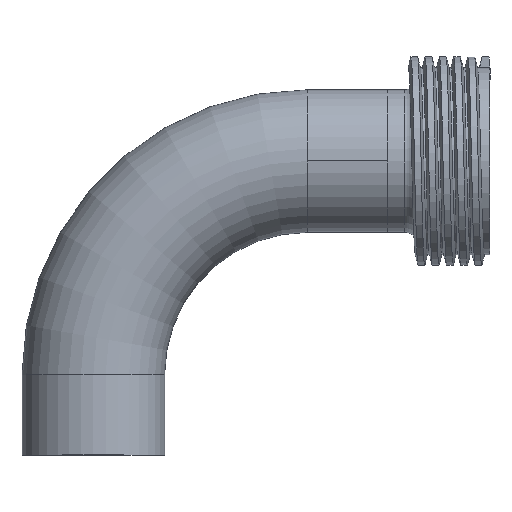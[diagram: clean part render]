
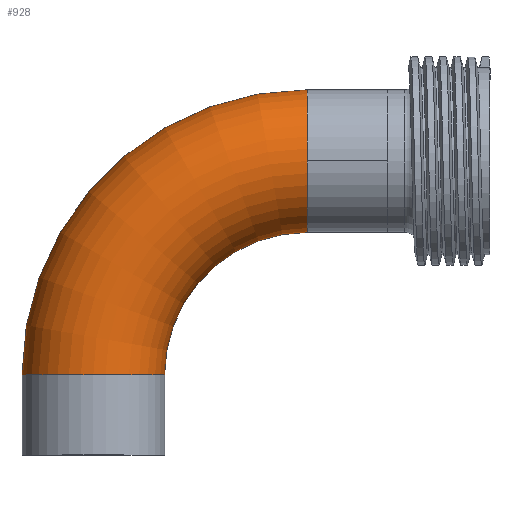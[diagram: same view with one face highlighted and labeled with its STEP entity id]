
A CAD part, top view. The second image highlights one B-rep face of the part: STEP entity #928.
In plain terms, the highlighted toroidal (fillet/blend) face has major radius 38.1 mm and minor radius 12.7 mm.
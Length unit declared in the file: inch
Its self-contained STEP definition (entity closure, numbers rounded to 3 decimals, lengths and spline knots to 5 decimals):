
#32 = DIRECTION ( 'NONE',  ( 0., -1., 0. ) ) ;
#74 = CIRCLE ( 'NONE', #1443, 2. ) ;
#158 = CARTESIAN_POINT ( 'NONE',  ( 0., -1.5, 0. ) ) ;
#208 = CARTESIAN_POINT ( 'NONE',  ( 1.5, -1.5, 0. ) ) ;
#223 = AXIS2_PLACEMENT_3D ( 'NONE', #649, #1999, #839 ) ;
#268 = CARTESIAN_POINT ( 'NONE',  ( 1.5, -1.5, 0. ) ) ;
#352 = DIRECTION ( 'NONE',  ( 1., 0., 0. ) ) ;
#401 = DIRECTION ( 'NONE',  ( -1., 0., 0. ) ) ;
#466 = DIRECTION ( 'NONE',  ( -1., 0., 0. ) ) ;
#471 = CARTESIAN_POINT ( 'NONE',  ( 1.5, -1.5, 0. ) ) ;
#477 = EDGE_CURVE ( 'NONE', #826, #1966, #74, .T. ) ;
#519 = CIRCLE ( 'NONE', #1398, 0.5 ) ;
#534 = EDGE_CURVE ( 'NONE', #1058, #1966, #519, .T. ) ;
#606 = CARTESIAN_POINT ( 'NONE',  ( 0.5, -1.5, 0. ) ) ;
#649 = CARTESIAN_POINT ( 'NONE',  ( 1.5, 0., 0. ) ) ;
#812 = EDGE_CURVE ( 'NONE', #1027, #2136, #1753, .T. ) ;
#822 = AXIS2_PLACEMENT_3D ( 'NONE', #471, #854, #1047 ) ;
#826 = VERTEX_POINT ( 'NONE', #2359 ) ;
#839 = DIRECTION ( 'NONE',  ( 0., -1., 0. ) ) ;
#854 = DIRECTION ( 'NONE',  ( 0., 0., -1. ) ) ;
#915 = EDGE_LOOP ( 'NONE', ( #1541, #2052, #1481, #1728, #2422 ) ) ;
#928 = ADVANCED_FACE ( 'NONE', ( #1107 ), #1046, .T. ) ;
#972 = CIRCLE ( 'NONE', #223, 0.5 ) ;
#986 = AXIS2_PLACEMENT_3D ( 'NONE', #268, #1611, #466 ) ;
#1027 = VERTEX_POINT ( 'NONE', #606 ) ;
#1046 = TOROIDAL_SURFACE ( 'NONE', #822, 1.5, 0.5 ) ;
#1047 = DIRECTION ( 'NONE',  ( -1., 0., 0. ) ) ;
#1058 = VERTEX_POINT ( 'NONE', #2146 ) ;
#1103 = AXIS2_PLACEMENT_3D ( 'NONE', #158, #1492, #352 ) ;
#1107 = FACE_OUTER_BOUND ( 'NONE', #915, .T. ) ;
#1121 = CARTESIAN_POINT ( 'NONE',  ( 1.5, -0.5, 0. ) ) ;
#1158 = DIRECTION ( 'NONE',  ( -1., 0., 0. ) ) ;
#1398 = AXIS2_PLACEMENT_3D ( 'NONE', #2306, #1158, #32 ) ;
#1413 = EDGE_CURVE ( 'NONE', #2136, #1058, #972, .T. ) ;
#1443 = AXIS2_PLACEMENT_3D ( 'NONE', #208, #1548, #401 ) ;
#1481 = ORIENTED_EDGE ( 'NONE', *, *, #812, .T. ) ;
#1492 = DIRECTION ( 'NONE',  ( 0., -1., 0. ) ) ;
#1541 = ORIENTED_EDGE ( 'NONE', *, *, #477, .F. ) ;
#1548 = DIRECTION ( 'NONE',  ( 0., 0., -1. ) ) ;
#1611 = DIRECTION ( 'NONE',  ( 0., 0., -1. ) ) ;
#1681 = CARTESIAN_POINT ( 'NONE',  ( 1.5, 0.5, 0. ) ) ;
#1728 = ORIENTED_EDGE ( 'NONE', *, *, #1413, .T. ) ;
#1753 = CIRCLE ( 'NONE', #986, 1. ) ;
#1949 = EDGE_CURVE ( 'NONE', #1027, #826, #2322, .T. ) ;
#1966 = VERTEX_POINT ( 'NONE', #1681 ) ;
#1999 = DIRECTION ( 'NONE',  ( -1., 0., 0. ) ) ;
#2052 = ORIENTED_EDGE ( 'NONE', *, *, #1949, .F. ) ;
#2136 = VERTEX_POINT ( 'NONE', #1121 ) ;
#2146 = CARTESIAN_POINT ( 'NONE',  ( 1.5, 0., 0.5 ) ) ;
#2306 = CARTESIAN_POINT ( 'NONE',  ( 1.5, 0., 0. ) ) ;
#2322 = CIRCLE ( 'NONE', #1103, 0.5 ) ;
#2359 = CARTESIAN_POINT ( 'NONE',  ( -0.5, -1.5, 0. ) ) ;
#2422 = ORIENTED_EDGE ( 'NONE', *, *, #534, .T. ) ;
